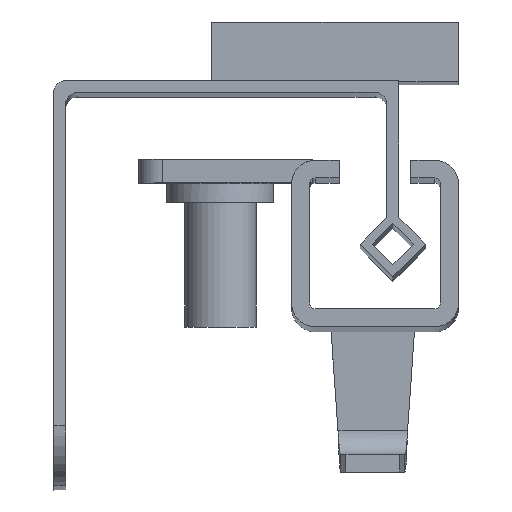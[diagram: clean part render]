
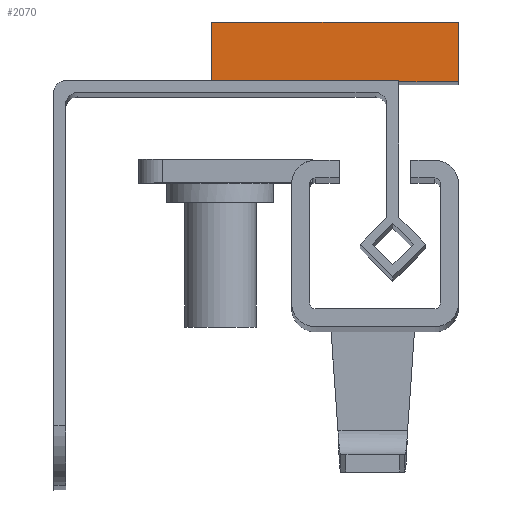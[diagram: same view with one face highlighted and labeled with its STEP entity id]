
A CAD part, top view. The second image highlights one B-rep face of the part: STEP entity #2070.
In plain terms, the highlighted planar face has unit normal (0, 0, 1) as drawn and (1, 0, 0) by its records, which use the part's own axes.
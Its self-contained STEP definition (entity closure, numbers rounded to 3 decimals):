
#314=FACE_OUTER_BOUND('',#434,.T.);
#434=EDGE_LOOP('',(#1596,#1597,#1598,#1599,#1600));
#654=LINE('',#3275,#814);
#655=LINE('',#3277,#815);
#656=LINE('',#3279,#816);
#657=LINE('',#3281,#817);
#658=LINE('',#3282,#818);
#814=VECTOR('',#2639,10.);
#815=VECTOR('',#2640,10.);
#816=VECTOR('',#2641,10.);
#817=VECTOR('',#2642,10.);
#818=VECTOR('',#2643,10.);
#969=VERTEX_POINT('',#3273);
#970=VERTEX_POINT('',#3274);
#971=VERTEX_POINT('',#3276);
#972=VERTEX_POINT('',#3278);
#973=VERTEX_POINT('',#3280);
#1202=EDGE_CURVE('',#969,#970,#654,.T.);
#1203=EDGE_CURVE('',#969,#971,#655,.T.);
#1204=EDGE_CURVE('',#972,#971,#656,.T.);
#1205=EDGE_CURVE('',#973,#972,#657,.T.);
#1206=EDGE_CURVE('',#970,#973,#658,.T.);
#1596=ORIENTED_EDGE('',*,*,#1202,.F.);
#1597=ORIENTED_EDGE('',*,*,#1203,.T.);
#1598=ORIENTED_EDGE('',*,*,#1204,.F.);
#1599=ORIENTED_EDGE('',*,*,#1205,.F.);
#1600=ORIENTED_EDGE('',*,*,#1206,.F.);
#1881=PLANE('',#2243);
#2070=ADVANCED_FACE('',(#314),#1881,.T.);
#2243=AXIS2_PLACEMENT_3D('',#3272,#2637,#2638);
#2637=DIRECTION('center_axis',(1.,0.,0.));
#2638=DIRECTION('ref_axis',(0.,0.,1.));
#2639=DIRECTION('',(0.,0.,-1.));
#2640=DIRECTION('',(0.,-1.,0.));
#2641=DIRECTION('',(0.,0.,1.));
#2642=DIRECTION('',(0.,-1.,0.));
#2643=DIRECTION('',(0.,0.,-1.));
#3272=CARTESIAN_POINT('Origin',(207.981,-129.903,13.279));
#3273=CARTESIAN_POINT('',(207.981,-129.903,34.));
#3274=CARTESIAN_POINT('',(207.981,-129.903,29.));
#3275=CARTESIAN_POINT('',(207.981,-129.903,34.));
#3276=CARTESIAN_POINT('',(207.981,-134.903,34.));
#3277=CARTESIAN_POINT('',(207.981,-129.903,34.));
#3278=CARTESIAN_POINT('',(207.981,-134.903,13.279));
#3279=CARTESIAN_POINT('',(207.981,-134.903,34.));
#3280=CARTESIAN_POINT('',(207.981,-129.903,13.279));
#3281=CARTESIAN_POINT('',(207.981,-129.903,13.279));
#3282=CARTESIAN_POINT('',(207.981,-129.903,6.639));
